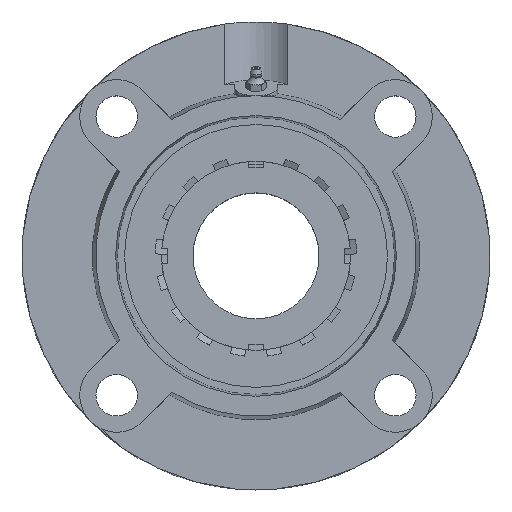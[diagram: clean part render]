
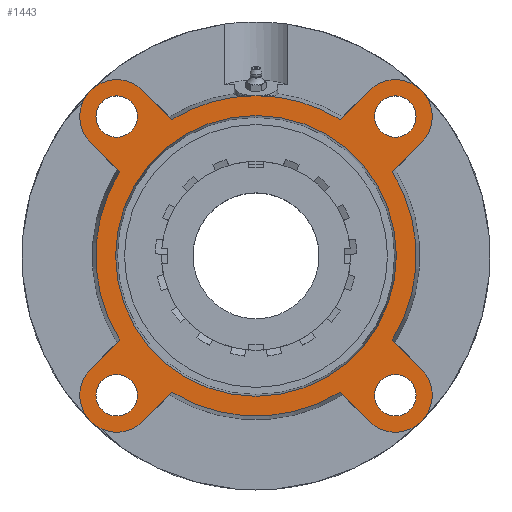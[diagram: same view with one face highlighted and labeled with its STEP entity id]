
A CAD part, top view. The second image highlights one B-rep face of the part: STEP entity #1443.
In plain terms, the highlighted planar face has unit normal (0, 0, 1).
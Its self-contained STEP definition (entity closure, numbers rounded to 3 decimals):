
#181=CARTESIAN_POINT('',(65.928,-77.428,26.));
#182=VERTEX_POINT('',#181);
#183=CARTESIAN_POINT('',(77.428,-77.428,26.));
#184=DIRECTION('',(0.0,0.0,-1.0));
#185=DIRECTION('',(1.0,0.0,0.0));
#186=AXIS2_PLACEMENT_3D('',#183,#184,#185);
#187=CIRCLE('',#186,11.5);
#188=EDGE_CURVE('',#182,#182,#187,.T.);
#209=CARTESIAN_POINT('',(-88.928,77.428,26.));
#210=VERTEX_POINT('',#209);
#211=CARTESIAN_POINT('',(-77.428,77.428,26.));
#212=DIRECTION('',(0.0,0.0,-1.0));
#213=DIRECTION('',(1.0,0.0,0.0));
#214=AXIS2_PLACEMENT_3D('',#211,#212,#213);
#215=CIRCLE('',#214,11.5);
#216=EDGE_CURVE('',#210,#210,#215,.T.);
#237=CARTESIAN_POINT('',(-88.928,-77.428,26.));
#238=VERTEX_POINT('',#237);
#239=CARTESIAN_POINT('',(-77.428,-77.428,26.));
#240=DIRECTION('',(0.0,0.0,-1.0));
#241=DIRECTION('',(1.0,0.0,0.0));
#242=AXIS2_PLACEMENT_3D('',#239,#240,#241);
#243=CIRCLE('',#242,11.5);
#244=EDGE_CURVE('',#238,#238,#243,.T.);
#265=CARTESIAN_POINT('',(65.928,77.428,26.));
#266=VERTEX_POINT('',#265);
#267=CARTESIAN_POINT('',(77.428,77.428,26.));
#268=DIRECTION('',(0.0,0.0,-1.0));
#269=DIRECTION('',(1.0,0.0,0.0));
#270=AXIS2_PLACEMENT_3D('',#267,#268,#269);
#271=CIRCLE('',#270,11.5);
#272=EDGE_CURVE('',#266,#266,#271,.T.);
#445=CARTESIAN_POINT('',(0.0,78.0,26.));
#446=VERTEX_POINT('',#445);
#447=CARTESIAN_POINT('',(0.0,0.,26.));
#448=DIRECTION('',(0.0,0.0,-1.0));
#449=DIRECTION('',(0.0,1.0,0.0));
#450=AXIS2_PLACEMENT_3D('',#447,#448,#449);
#451=CIRCLE('',#450,78.0);
#452=EDGE_CURVE('',#446,#446,#451,.T.);
#722=CARTESIAN_POINT('',(0.,89.,26.));
#723=VERTEX_POINT('',#722);
#845=CARTESIAN_POINT('',(-46.745,75.736,26.));
#846=VERTEX_POINT('',#845);
#860=CARTESIAN_POINT('',(0.0,0.,26.));
#861=DIRECTION('',(0.0,0.0,-1.0));
#862=DIRECTION('',(0.0,1.0,0.0));
#863=AXIS2_PLACEMENT_3D('',#860,#861,#862);
#864=CIRCLE('',#863,89.0);
#865=EDGE_CURVE('',#846,#723,#864,.T.);
#878=CARTESIAN_POINT('',(46.745,75.736,26.));
#879=VERTEX_POINT('',#878);
#880=CARTESIAN_POINT('',(0.0,0.,26.));
#881=DIRECTION('',(0.0,0.0,-1.0));
#882=DIRECTION('',(0.0,1.0,0.0));
#883=AXIS2_PLACEMENT_3D('',#880,#881,#882);
#884=CIRCLE('',#883,89.0);
#885=EDGE_CURVE('',#723,#879,#884,.T.);
#909=CARTESIAN_POINT('',(-75.736,46.745,26.));
#910=VERTEX_POINT('',#909);
#926=CARTESIAN_POINT('',(-91.924,62.933,26.));
#927=VERTEX_POINT('',#926);
#928=CARTESIAN_POINT('',(-75.736,46.745,26.));
#929=DIRECTION('',(-0.707,0.707,0.));
#930=VECTOR('',#929,22.893);
#931=LINE('',#928,#930);
#932=EDGE_CURVE('',#910,#927,#931,.T.);
#956=CARTESIAN_POINT('',(-46.745,-75.736,26.));
#957=VERTEX_POINT('',#956);
#973=CARTESIAN_POINT('',(-62.933,-91.924,26.));
#974=VERTEX_POINT('',#973);
#975=CARTESIAN_POINT('',(-46.745,-75.736,26.));
#976=DIRECTION('',(-0.707,-0.707,0.));
#977=VECTOR('',#976,22.893);
#978=LINE('',#975,#977);
#979=EDGE_CURVE('',#957,#974,#978,.T.);
#1003=CARTESIAN_POINT('',(75.736,-46.745,26.));
#1004=VERTEX_POINT('',#1003);
#1020=CARTESIAN_POINT('',(91.924,-62.933,26.));
#1021=VERTEX_POINT('',#1020);
#1022=CARTESIAN_POINT('',(75.736,-46.745,26.));
#1023=DIRECTION('',(0.707,-0.707,0.));
#1024=VECTOR('',#1023,22.893);
#1025=LINE('',#1022,#1024);
#1026=EDGE_CURVE('',#1004,#1021,#1025,.T.);
#1051=CARTESIAN_POINT('',(62.933,91.924,26.));
#1052=VERTEX_POINT('',#1051);
#1053=CARTESIAN_POINT('',(46.745,75.736,26.));
#1054=DIRECTION('',(0.707,0.707,0.));
#1055=VECTOR('',#1054,22.893);
#1056=LINE('',#1053,#1055);
#1057=EDGE_CURVE('',#879,#1052,#1056,.T.);
#1076=CARTESIAN_POINT('',(46.745,-75.736,26.));
#1077=VERTEX_POINT('',#1076);
#1099=CARTESIAN_POINT('',(62.933,-91.924,26.));
#1100=VERTEX_POINT('',#1099);
#1107=CARTESIAN_POINT('',(62.933,-91.924,26.));
#1108=DIRECTION('',(-0.707,0.707,0.));
#1109=VECTOR('',#1108,22.893);
#1110=LINE('',#1107,#1109);
#1111=EDGE_CURVE('',#1100,#1077,#1110,.T.);
#1121=CARTESIAN_POINT('',(-91.924,-62.933,26.));
#1122=VERTEX_POINT('',#1121);
#1123=CARTESIAN_POINT('',(-77.428,-77.428,26.));
#1124=DIRECTION('',(0.0,0.0,-1.0));
#1125=DIRECTION('',(-0.638,0.77,0.0));
#1126=AXIS2_PLACEMENT_3D('',#1123,#1124,#1125);
#1127=CIRCLE('',#1126,20.5);
#1128=EDGE_CURVE('',#974,#1122,#1127,.T.);
#1163=CARTESIAN_POINT('',(-75.736,-46.745,26.));
#1164=VERTEX_POINT('',#1163);
#1185=CARTESIAN_POINT('',(-91.924,-62.933,26.));
#1186=DIRECTION('',(0.707,0.707,0.));
#1187=VECTOR('',#1186,22.893);
#1188=LINE('',#1185,#1187);
#1189=EDGE_CURVE('',#1122,#1164,#1188,.T.);
#1199=CARTESIAN_POINT('',(-62.933,91.924,26.));
#1200=VERTEX_POINT('',#1199);
#1201=CARTESIAN_POINT('',(-77.428,77.428,26.));
#1202=DIRECTION('',(0.0,0.0,-1.0));
#1203=DIRECTION('',(0.77,0.638,0.0));
#1204=AXIS2_PLACEMENT_3D('',#1201,#1202,#1203);
#1205=CIRCLE('',#1204,20.5);
#1206=EDGE_CURVE('',#927,#1200,#1205,.T.);
#1234=CARTESIAN_POINT('',(-62.933,91.924,26.));
#1235=DIRECTION('',(0.707,-0.707,0.));
#1236=VECTOR('',#1235,22.893);
#1237=LINE('',#1234,#1236);
#1238=EDGE_CURVE('',#1200,#846,#1237,.T.);
#1248=CARTESIAN_POINT('',(91.924,62.933,26.));
#1249=VERTEX_POINT('',#1248);
#1250=CARTESIAN_POINT('',(77.428,77.428,26.));
#1251=DIRECTION('',(0.0,0.0,-1.0));
#1252=DIRECTION('',(0.638,-0.77,0.0));
#1253=AXIS2_PLACEMENT_3D('',#1250,#1251,#1252);
#1254=CIRCLE('',#1253,20.5);
#1255=EDGE_CURVE('',#1052,#1249,#1254,.T.);
#1284=CARTESIAN_POINT('',(75.736,46.745,26.));
#1285=VERTEX_POINT('',#1284);
#1306=CARTESIAN_POINT('',(91.924,62.933,26.));
#1307=DIRECTION('',(-0.707,-0.707,0.));
#1308=VECTOR('',#1307,22.893);
#1309=LINE('',#1306,#1308);
#1310=EDGE_CURVE('',#1249,#1285,#1309,.T.);
#1320=CARTESIAN_POINT('',(77.428,-77.428,26.));
#1321=DIRECTION('',(0.0,0.0,-1.0));
#1322=DIRECTION('',(-0.77,-0.638,0.0));
#1323=AXIS2_PLACEMENT_3D('',#1320,#1321,#1322);
#1324=CIRCLE('',#1323,20.5);
#1325=EDGE_CURVE('',#1021,#1100,#1324,.T.);
#1386=CARTESIAN_POINT('',(0.0,44.5,26.));
#1387=DIRECTION('',(0.0,0.0,1.0));
#1388=DIRECTION('',(1.0,0.0,0.0));
#1389=AXIS2_PLACEMENT_3D('',#1386,#1387,#1388);
#1390=PLANE('',#1389);
#1391=CARTESIAN_POINT('',(0.0,0.,26.));
#1392=DIRECTION('',(0.0,0.0,-1.0));
#1393=DIRECTION('',(0.0,1.0,0.0));
#1394=AXIS2_PLACEMENT_3D('',#1391,#1392,#1393);
#1395=CIRCLE('',#1394,89.0);
#1396=EDGE_CURVE('',#1077,#957,#1395,.T.);
#1397=ORIENTED_EDGE('',*,*,#1396,.F.);
#1398=ORIENTED_EDGE('',*,*,#1111,.F.);
#1399=ORIENTED_EDGE('',*,*,#1325,.F.);
#1400=ORIENTED_EDGE('',*,*,#1026,.F.);
#1401=CARTESIAN_POINT('',(0.0,0.,26.));
#1402=DIRECTION('',(0.0,0.0,-1.0));
#1403=DIRECTION('',(0.0,1.0,0.0));
#1404=AXIS2_PLACEMENT_3D('',#1401,#1402,#1403);
#1405=CIRCLE('',#1404,89.0);
#1406=EDGE_CURVE('',#1285,#1004,#1405,.T.);
#1407=ORIENTED_EDGE('',*,*,#1406,.F.);
#1408=ORIENTED_EDGE('',*,*,#1310,.F.);
#1409=ORIENTED_EDGE('',*,*,#1255,.F.);
#1410=ORIENTED_EDGE('',*,*,#1057,.F.);
#1411=ORIENTED_EDGE('',*,*,#885,.F.);
#1412=ORIENTED_EDGE('',*,*,#865,.F.);
#1413=ORIENTED_EDGE('',*,*,#1238,.F.);
#1414=ORIENTED_EDGE('',*,*,#1206,.F.);
#1415=ORIENTED_EDGE('',*,*,#932,.F.);
#1416=CARTESIAN_POINT('',(0.0,0.,26.));
#1417=DIRECTION('',(0.0,0.0,-1.0));
#1418=DIRECTION('',(0.0,1.0,0.0));
#1419=AXIS2_PLACEMENT_3D('',#1416,#1417,#1418);
#1420=CIRCLE('',#1419,89.0);
#1421=EDGE_CURVE('',#1164,#910,#1420,.T.);
#1422=ORIENTED_EDGE('',*,*,#1421,.F.);
#1423=ORIENTED_EDGE('',*,*,#1189,.F.);
#1424=ORIENTED_EDGE('',*,*,#1128,.F.);
#1425=ORIENTED_EDGE('',*,*,#979,.F.);
#1426=EDGE_LOOP('',(#1397,#1398,#1399,#1400,#1407,#1408,#1409,#1410,#1411,#1412,#1413,#1414,#1415,#1422,#1423,#1424,#1425));
#1427=FACE_OUTER_BOUND('',#1426,.T.);
#1428=ORIENTED_EDGE('',*,*,#188,.T.);
#1429=EDGE_LOOP('',(#1428));
#1430=FACE_BOUND('',#1429,.T.);
#1431=ORIENTED_EDGE('',*,*,#216,.T.);
#1432=EDGE_LOOP('',(#1431));
#1433=FACE_BOUND('',#1432,.T.);
#1434=ORIENTED_EDGE('',*,*,#244,.T.);
#1435=EDGE_LOOP('',(#1434));
#1436=FACE_BOUND('',#1435,.T.);
#1437=ORIENTED_EDGE('',*,*,#272,.T.);
#1438=EDGE_LOOP('',(#1437));
#1439=FACE_BOUND('',#1438,.T.);
#1440=ORIENTED_EDGE('',*,*,#452,.T.);
#1441=EDGE_LOOP('',(#1440));
#1442=FACE_BOUND('',#1441,.T.);
#1443=ADVANCED_FACE('',(#1427,#1430,#1433,#1436,#1439,#1442),#1390,.T.);
